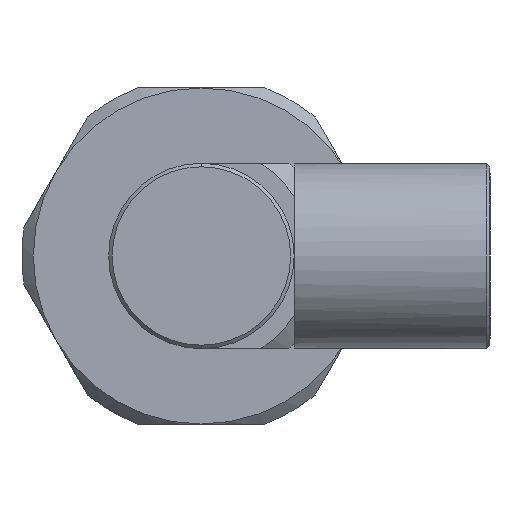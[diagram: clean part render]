
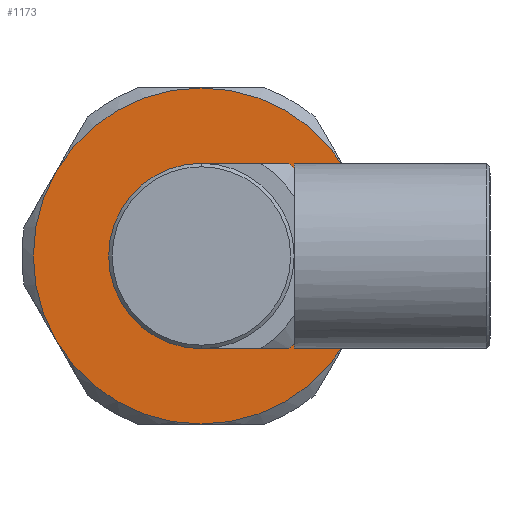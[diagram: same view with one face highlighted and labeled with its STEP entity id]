
A CAD part, left-side view. The second image highlights one B-rep face of the part: STEP entity #1173.
In plain terms, the highlighted planar face has unit normal (-1, 0, 0).
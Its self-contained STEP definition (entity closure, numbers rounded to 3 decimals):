
#12 = EDGE_CURVE ( 'NONE', #1124, #1217, #206, .T. ) ;
#38 = VECTOR ( 'NONE', #259, 1000. ) ;
#68 = DIRECTION ( 'NONE',  ( 0., 0., -1. ) ) ;
#76 = ORIENTED_EDGE ( 'NONE', *, *, #12, .F. ) ;
#103 = LINE ( 'NONE', #663, #38 ) ;
#126 = EDGE_CURVE ( 'NONE', #1761, #710, #1160, .T. ) ;
#169 = CARTESIAN_POINT ( 'NONE',  ( -24.026, -8.387, -14.474 ) ) ;
#201 = CARTESIAN_POINT ( 'NONE',  ( -24.026, -12.539, -7.281 ) ) ;
#206 = CIRCLE ( 'NONE', #327, 14.5 ) ;
#234 = VECTOR ( 'NONE', #1293, 1000. ) ;
#259 = DIRECTION ( 'NONE',  ( 0., 0.5, 0.866 ) ) ;
#260 = LINE ( 'NONE', #2335, #1222 ) ;
#273 = CARTESIAN_POINT ( 'NONE',  ( -24.026, 0., 0. ) ) ;
#292 = ORIENTED_EDGE ( 'NONE', *, *, #565, .F. ) ;
#300 = DIRECTION ( 'NONE',  ( -1., 0., 0. ) ) ;
#307 = DIRECTION ( 'NONE',  ( 1., 0., 0. ) ) ;
#308 = AXIS2_PLACEMENT_3D ( 'NONE', #273, #307, #1037 ) ;
#316 = AXIS2_PLACEMENT_3D ( 'NONE', #1579, #1431, #1446 ) ;
#327 = AXIS2_PLACEMENT_3D ( 'NONE', #1583, #602, #1366 ) ;
#345 = LINE ( 'NONE', #494, #2192 ) ;
#385 = CARTESIAN_POINT ( 'NONE',  ( -24.026, 12.539, -7.281 ) ) ;
#395 = EDGE_CURVE ( 'NONE', #741, #1230, #1866, .T. ) ;
#460 = DIRECTION ( 'NONE',  ( 1., 0., 0. ) ) ;
#494 = CARTESIAN_POINT ( 'NONE',  ( -24.026, -16.728, 0.026 ) ) ;
#495 = FACE_BOUND ( 'NONE', #1999, .T. ) ;
#514 = CARTESIAN_POINT ( 'NONE',  ( -24.026, 0., 8. ) ) ;
#524 = VERTEX_POINT ( 'NONE', #1610 ) ;
#565 = EDGE_CURVE ( 'NONE', #710, #1954, #345, .T. ) ;
#566 = CIRCLE ( 'NONE', #646, 14.5 ) ;
#570 = CARTESIAN_POINT ( 'NONE',  ( -24.026, -0.036, 14.5 ) ) ;
#572 = CARTESIAN_POINT ( 'NONE',  ( -24.026, 8.342, -14.5 ) ) ;
#602 = DIRECTION ( 'NONE',  ( 1., 0., 0. ) ) ;
#646 = AXIS2_PLACEMENT_3D ( 'NONE', #1204, #1824, #2155 ) ;
#663 = CARTESIAN_POINT ( 'NONE',  ( -24.026, 16.728, -0.026 ) ) ;
#675 = VECTOR ( 'NONE', #742, 1000. ) ;
#691 = ORIENTED_EDGE ( 'NONE', *, *, #126, .F. ) ;
#708 = FACE_OUTER_BOUND ( 'NONE', #866, .T. ) ;
#710 = VERTEX_POINT ( 'NONE', #1184 ) ;
#717 = EDGE_CURVE ( 'NONE', #1954, #741, #566, .T. ) ;
#741 = VERTEX_POINT ( 'NONE', #1769 ) ;
#742 = DIRECTION ( 'NONE',  ( 0., 1., 0. ) ) ;
#790 = CIRCLE ( 'NONE', #308, 8. ) ;
#792 = ORIENTED_EDGE ( 'NONE', *, *, #2171, .F. ) ;
#856 = CARTESIAN_POINT ( 'NONE',  ( -24.026, 12.539, 7.281 ) ) ;
#866 = EDGE_LOOP ( 'NONE', ( #1840, #1695, #292, #691, #1435, #2379, #1691, #1098, #938, #76, #1397, #792 ) ) ;
#915 = LINE ( 'NONE', #2030, #234 ) ;
#930 = DIRECTION ( 'NONE',  ( 1., 0., 0. ) ) ;
#938 = ORIENTED_EDGE ( 'NONE', *, *, #1995, .F. ) ;
#958 = VERTEX_POINT ( 'NONE', #990 ) ;
#990 = CARTESIAN_POINT ( 'NONE',  ( -24.026, 12.575, 7.219 ) ) ;
#996 = CIRCLE ( 'NONE', #316, 8. ) ;
#998 = AXIS2_PLACEMENT_3D ( 'NONE', #1599, #1024, #1774 ) ;
#1024 = DIRECTION ( 'NONE',  ( 1., 0., 0. ) ) ;
#1037 = DIRECTION ( 'NONE',  ( 0., 0., -1. ) ) ;
#1059 = DIRECTION ( 'NONE',  ( 0., 0., 1. ) ) ;
#1077 = LINE ( 'NONE', #572, #675 ) ;
#1081 = EDGE_CURVE ( 'NONE', #1581, #1107, #2462, .T. ) ;
#1089 = CIRCLE ( 'NONE', #1647, 14.5 ) ;
#1092 = CARTESIAN_POINT ( 'NONE',  ( -24.026, 0.036, 14.5 ) ) ;
#1098 = ORIENTED_EDGE ( 'NONE', *, *, #1354, .F. ) ;
#1107 = VERTEX_POINT ( 'NONE', #1092 ) ;
#1124 = VERTEX_POINT ( 'NONE', #2380 ) ;
#1139 = CARTESIAN_POINT ( 'NONE',  ( -24.026, -0.036, -14.5 ) ) ;
#1141 = CARTESIAN_POINT ( 'NONE',  ( -24.026, 0., -8. ) ) ;
#1160 = CIRCLE ( 'NONE', #998, 14.5 ) ;
#1173 = ADVANCED_FACE ( 'NONE', ( #708, #495 ), #1257, .T. ) ;
#1184 = CARTESIAN_POINT ( 'NONE',  ( -24.026, -12.539, 7.281 ) ) ;
#1185 = EDGE_CURVE ( 'NONE', #1788, #1124, #1077, .T. ) ;
#1204 = CARTESIAN_POINT ( 'NONE',  ( -24.026, 0., 0. ) ) ;
#1217 = VERTEX_POINT ( 'NONE', #385 ) ;
#1222 = VECTOR ( 'NONE', #2145, 1000. ) ;
#1229 = VERTEX_POINT ( 'NONE', #1141 ) ;
#1230 = VERTEX_POINT ( 'NONE', #201 ) ;
#1236 = AXIS2_PLACEMENT_3D ( 'NONE', #2007, #300, #1059 ) ;
#1257 = PLANE ( 'NONE',  #1236 ) ;
#1293 = DIRECTION ( 'NONE',  ( 0., -0.5, 0.866 ) ) ;
#1316 = CIRCLE ( 'NONE', #2428, 14.5 ) ;
#1318 = VECTOR ( 'NONE', #2078, 1000. ) ;
#1350 = CARTESIAN_POINT ( 'NONE',  ( -24.026, -12.575, 7.219 ) ) ;
#1354 = EDGE_CURVE ( 'NONE', #524, #958, #1089, .T. ) ;
#1366 = DIRECTION ( 'NONE',  ( 0., 0., -1. ) ) ;
#1371 = EDGE_CURVE ( 'NONE', #1107, #1761, #260, .T. ) ;
#1394 = CARTESIAN_POINT ( 'NONE',  ( -24.026, 0., 0. ) ) ;
#1397 = ORIENTED_EDGE ( 'NONE', *, *, #1185, .F. ) ;
#1431 = DIRECTION ( 'NONE',  ( 1., 0., 0. ) ) ;
#1435 = ORIENTED_EDGE ( 'NONE', *, *, #1371, .F. ) ;
#1446 = DIRECTION ( 'NONE',  ( 0., 0., -1. ) ) ;
#1554 = EDGE_CURVE ( 'NONE', #1229, #2176, #790, .T. ) ;
#1579 = CARTESIAN_POINT ( 'NONE',  ( -24.026, 0., 0. ) ) ;
#1581 = VERTEX_POINT ( 'NONE', #856 ) ;
#1583 = CARTESIAN_POINT ( 'NONE',  ( -24.026, 0., 0. ) ) ;
#1599 = CARTESIAN_POINT ( 'NONE',  ( -24.026, 0., 0. ) ) ;
#1610 = CARTESIAN_POINT ( 'NONE',  ( -24.026, 12.575, -7.219 ) ) ;
#1647 = AXIS2_PLACEMENT_3D ( 'NONE', #2346, #1762, #68 ) ;
#1657 = CARTESIAN_POINT ( 'NONE',  ( -24.026, 0., 0. ) ) ;
#1691 = ORIENTED_EDGE ( 'NONE', *, *, #2220, .F. ) ;
#1695 = ORIENTED_EDGE ( 'NONE', *, *, #717, .F. ) ;
#1761 = VERTEX_POINT ( 'NONE', #570 ) ;
#1762 = DIRECTION ( 'NONE',  ( 1., 0., 0. ) ) ;
#1769 = CARTESIAN_POINT ( 'NONE',  ( -24.026, -12.575, -7.219 ) ) ;
#1774 = DIRECTION ( 'NONE',  ( 0., 0., -1. ) ) ;
#1788 = VERTEX_POINT ( 'NONE', #1139 ) ;
#1824 = DIRECTION ( 'NONE',  ( 1., 0., 0. ) ) ;
#1840 = ORIENTED_EDGE ( 'NONE', *, *, #395, .F. ) ;
#1866 = LINE ( 'NONE', #169, #1318 ) ;
#1921 = ORIENTED_EDGE ( 'NONE', *, *, #1554, .T. ) ;
#1954 = VERTEX_POINT ( 'NONE', #1350 ) ;
#1995 = EDGE_CURVE ( 'NONE', #1217, #524, #103, .T. ) ;
#1999 = EDGE_LOOP ( 'NONE', ( #1921, #2238 ) ) ;
#2007 = CARTESIAN_POINT ( 'NONE',  ( -24.026, 8., 0. ) ) ;
#2030 = CARTESIAN_POINT ( 'NONE',  ( -24.026, 8.387, 14.474 ) ) ;
#2069 = DIRECTION ( 'NONE',  ( 0., 0., -1. ) ) ;
#2078 = DIRECTION ( 'NONE',  ( 0., 0.5, -0.866 ) ) ;
#2145 = DIRECTION ( 'NONE',  ( 0., -1., 0. ) ) ;
#2150 = DIRECTION ( 'NONE',  ( 0., 0., -1. ) ) ;
#2155 = DIRECTION ( 'NONE',  ( 0., 0., -1. ) ) ;
#2171 = EDGE_CURVE ( 'NONE', #1230, #1788, #1316, .T. ) ;
#2176 = VERTEX_POINT ( 'NONE', #514 ) ;
#2192 = VECTOR ( 'NONE', #2207, 1000. ) ;
#2207 = DIRECTION ( 'NONE',  ( 0., -0.5, -0.866 ) ) ;
#2220 = EDGE_CURVE ( 'NONE', #958, #1581, #915, .T. ) ;
#2238 = ORIENTED_EDGE ( 'NONE', *, *, #2416, .T. ) ;
#2335 = CARTESIAN_POINT ( 'NONE',  ( -24.026, -8.342, 14.5 ) ) ;
#2346 = CARTESIAN_POINT ( 'NONE',  ( -24.026, 0., 0. ) ) ;
#2379 = ORIENTED_EDGE ( 'NONE', *, *, #1081, .F. ) ;
#2380 = CARTESIAN_POINT ( 'NONE',  ( -24.026, 0.036, -14.5 ) ) ;
#2416 = EDGE_CURVE ( 'NONE', #2176, #1229, #996, .T. ) ;
#2428 = AXIS2_PLACEMENT_3D ( 'NONE', #1657, #930, #2069 ) ;
#2460 = AXIS2_PLACEMENT_3D ( 'NONE', #1394, #460, #2150 ) ;
#2462 = CIRCLE ( 'NONE', #2460, 14.5 ) ;
